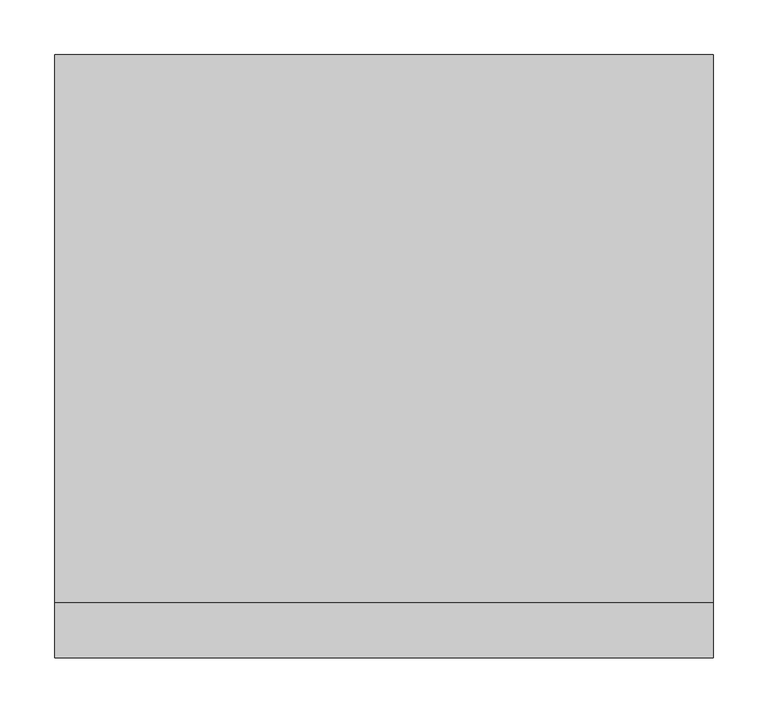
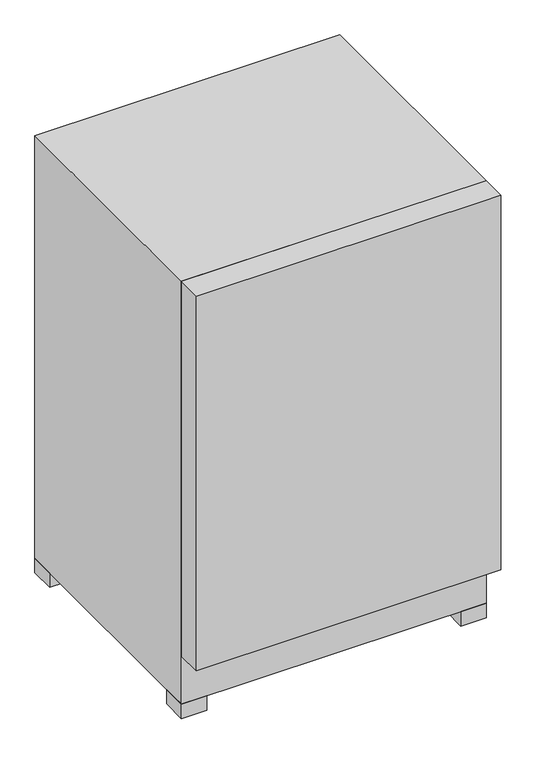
"""IFC4 building model written with IfcOpenShell, lengths in millimetres: proxy geometry, SUIK 1510, SUIG 1514 : SUIG 1514."""

from ifc_helpers import new_model, si_unit, frame, origin, place, context, project, spatial, polyline, outline, extrude, source, transform, mapped, element, save


def specialty_equipment_3b5050a7(model_context):
    return source(origin(), model_context, "Body", "SweptSolid", [
        extrude(outline(polyline([(-400.0, -479.8345306), (-400.0, -529.8345306), (-450.0, -529.8345306), (-450.0, -479.8345306), (-400.0, -479.8345306)])), frame((0.0, 0.0, 306.8132517), z_axis=(0.0, 0.0, 1.0), x_axis=(1.0, 0.0, 0.0)), (0.0, 0.0, 1.0), 30.0),
        extrude(outline(polyline([(-400.0, -29.8345306), (-400.0, -79.8345306), (-450.0, -79.8345306), (-450.0, -29.8345306), (-400.0, -29.8345306)])), frame((0.0, 0.0, 306.8132517), z_axis=(0.0, 0.0, 1.0), x_axis=(1.0, 0.0, 0.0)), (0.0, 0.0, 1.0), 30.0),
        extrude(outline(polyline([(-950.0, -29.8345306), (-950.0, -79.8345306), (-1000.0, -79.8345306), (-1000.0, -29.8345306), (-950.0, -29.8345306)])), frame((0.0, 0.0, 306.8132517), z_axis=(0.0, 0.0, 1.0), x_axis=(1.0, 0.0, 0.0)), (0.0, 0.0, 1.0), 30.0),
        extrude(outline(polyline([(-950.0, -479.8345306), (-950.0, -529.8345306), (-1000.0, -529.8345306), (-1000.0, -479.8345306), (-950.0, -479.8345306)])), frame((0.0, 0.0, 306.8132517), z_axis=(0.0, 0.0, 1.0), x_axis=(1.0, 0.0, 0.0)), (0.0, 0.0, 1.0), 30.0),
        extrude(outline(polyline([(-400.0, -579.8345306), (-1000.0, -579.8345306), (-1000.0, -529.8345306), (-400.0, -529.8345306), (-400.0, -579.8345306)])), frame((0.0, 0.0, 436.8132517), z_axis=(0.0, 0.0, 1.0), x_axis=(1.0, 0.0, 0.0)), (0.0, 0.0, 1.0), 780.0),
        extrude(outline(polyline([(-400.0, -529.8345306), (-1000.0, -529.8345306), (-1000.0, -29.8345306), (-400.0, -29.8345306), (-400.0, -529.8345306)])), frame((0.0, 0.0, 336.8132517), z_axis=(0.0, 0.0, 1.0), x_axis=(1.0, 0.0, 0.0)), (0.0, 0.0, 1.0), 880.0),
    ])


if __name__ == "__main__":
    model = new_model("IFC4")
    model_context = context("Model", 3, world=origin())
    ifc_project = project(units=[si_unit("LENGTHUNIT", "METRE", prefix="MILLI")], contexts=[model_context])
    site = spatial("IfcSite", under=ifc_project)
    building = spatial("IfcBuilding", under=site)
    placement = place(None, origin())
    specialty_equipment_shape = specialty_equipment_3b5050a7(model_context)
    element("IfcBuildingElementProxy", 1, Name="SUIK 1510, SUIG 1514 : SUIG 1514", ObjectType="SUIK 1510, SUIG 1514 : SUIG 1514", at=placement, inside=building, context=model_context, shape_type="MappedRepresentation", body=[
        mapped(specialty_equipment_shape, transform((0.0, 0.0, 0.0), x_axis=(1.0, 0.0, 0.0), y_axis=(0.0, 1.0, 0.0), z_axis=(0.0, 0.0, 1.0))),
    ])
    save(model, "model.ifc")
